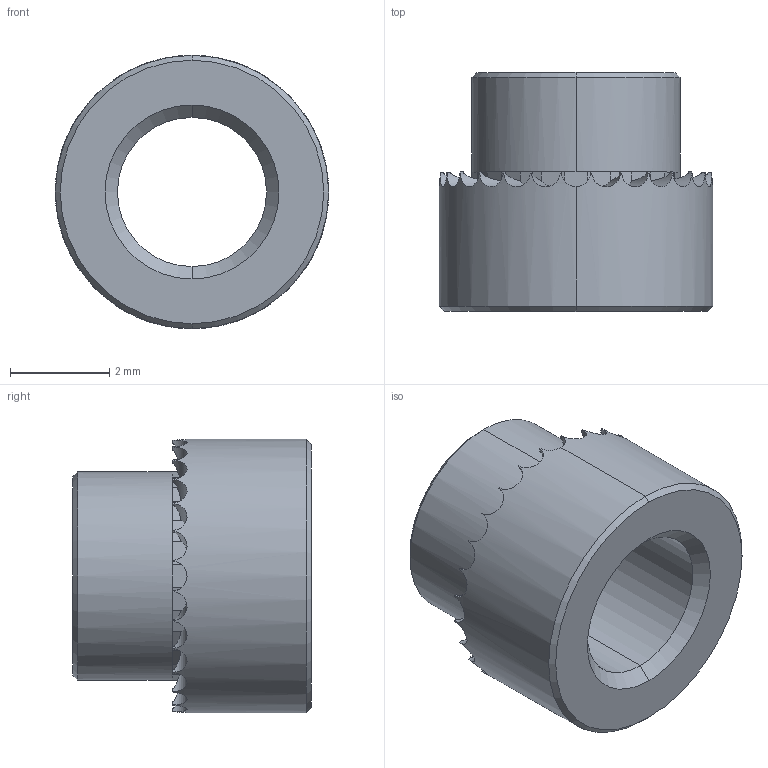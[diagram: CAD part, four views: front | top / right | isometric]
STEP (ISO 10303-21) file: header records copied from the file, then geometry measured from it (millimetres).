
FILE_DESCRIPTION (( 'STEP AP203' ), '1' );
FILE_NAME ('P0829.030-16G-ZP.step', '2019-03-21T22:13:21', ( '' ), ( '' ), 'SwSTEP 2.0', 'SolidWorks 2017', '' );
FILE_SCHEMA (( 'CONFIG_CONTROL_DESIGN' ));
Length unit declared in the file: millimetre
Products named in the file (1): P0829.030-16G-ZP
Bounding box: 5.5 x 4.8 x 5.5 mm (x, y, z)
Volume: 56.9 mm3; surface area: 151.4 mm2
Topology: 1 solids, 1 shells, 128 faces, 312 edges, 186 vertices
Faces by surface type: plane 86, cylinder 34, cone 8
Entity records: 3963 total; most frequent: CARTESIAN_POINT 965, ORIENTED_EDGE 624, DIRECTION 612, EDGE_CURVE 312, AXIS2_PLACEMENT_3D 229, VERTEX_POINT 186, VECTOR 154, LINE 154
